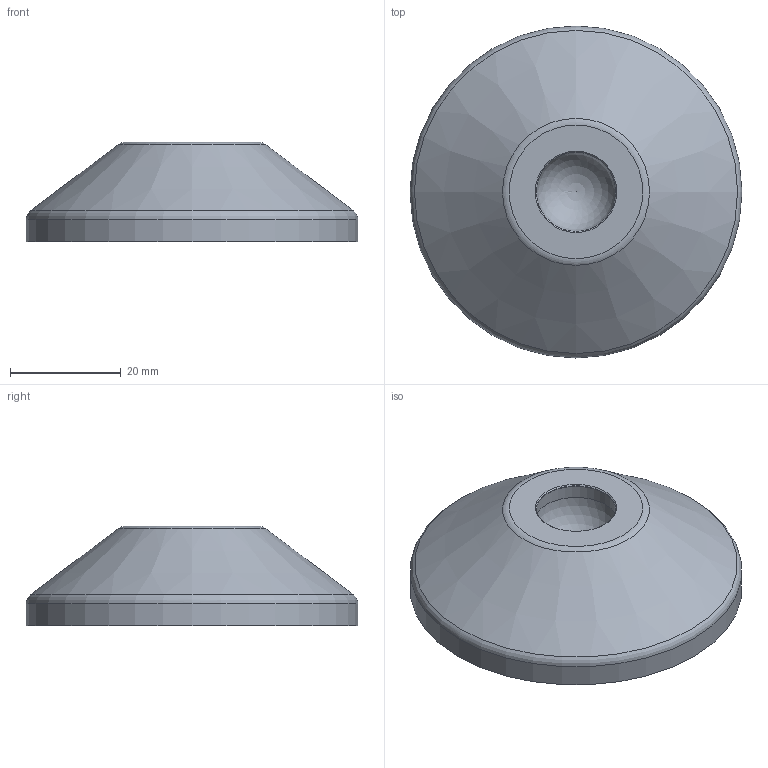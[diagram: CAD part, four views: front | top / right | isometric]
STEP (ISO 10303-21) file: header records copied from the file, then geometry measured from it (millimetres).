
FILE_DESCRIPTION(('STEP AP203'), '1');
FILE_NAME('A00015.1060 _ Îñíîâàíèÿ øàðíèðíûõ îïîð èç ïëàñòèêà, 20°', '', ('UNSPECIFIED'), ('UNSPECIFIED'), 'C3D Converter', 'C3D Toolkit', '');
FILE_SCHEMA(('CONFIG_CONTROL_DESIGN'));
Length unit declared in the file: millimetre
Products named in the file (1): A00015.1060
Bounding box: 60 x 60 x 18 mm (x, y, z)
Volume: 19798.6 mm3; surface area: 9836.8 mm2
Topology: 1 solids, 1 shells, 122 faces, 321 edges, 211 vertices
Faces by surface type: plane 68, cylinder 30, torus 20, cone 3, sphere 1
Full cylindrical faces by diameter (mm): 4 x8, 14.3 x1, 15 x2, 15.5 x1, 50.5 x1, 60 x1
Entity records: 5023 total; most frequent: CARTESIAN_POINT 2039, DIRECTION 618, ORIENTED_EDGE 596, EDGE_CURVE 298, AXIS2_PLACEMENT_3D 245, VERTEX_POINT 210, EDGE_LOOP 154, LINE 128
